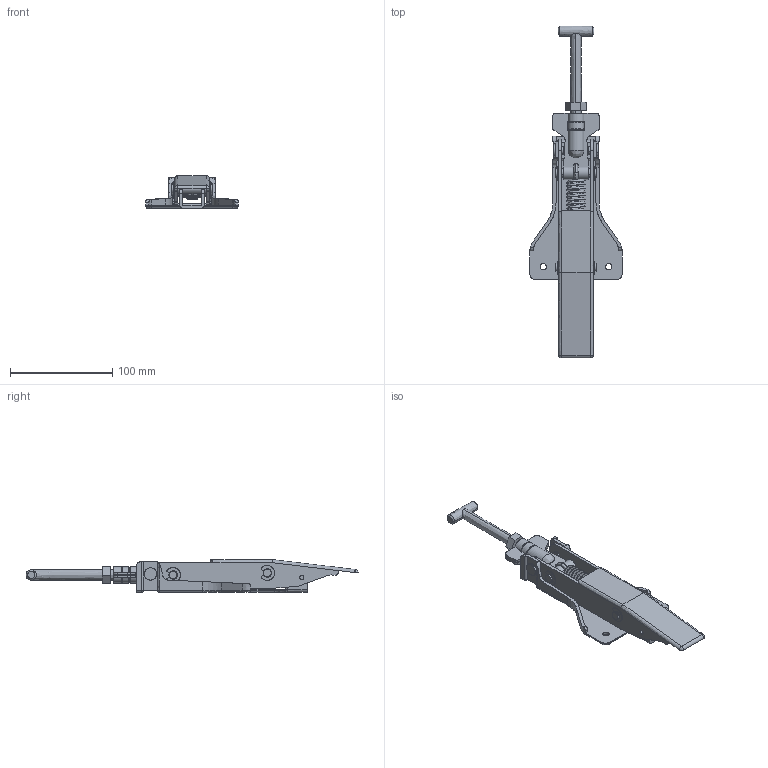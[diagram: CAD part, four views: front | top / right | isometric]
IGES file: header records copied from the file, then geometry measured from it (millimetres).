
Start section: SolidWorks IGES file using analytic representation for surfaces
Global section: file name: C:\Users\cbrechard\Desktop\GR 99.IGS; native system: SolidWorks 2017; preprocessor: SolidWorks 2017; author: cbrechard; date: 220420.093030; units: millimetre
Bounding box: 90 x 324.27 x 32 mm (x, y, z)
Surface area: 84189.9 mm2 (no closed solid volume)
Topology: 0 solids, 0 shells, 500 faces, 6960 edges, 6955 vertices
Faces by surface type: revolution 274, bspline 226
